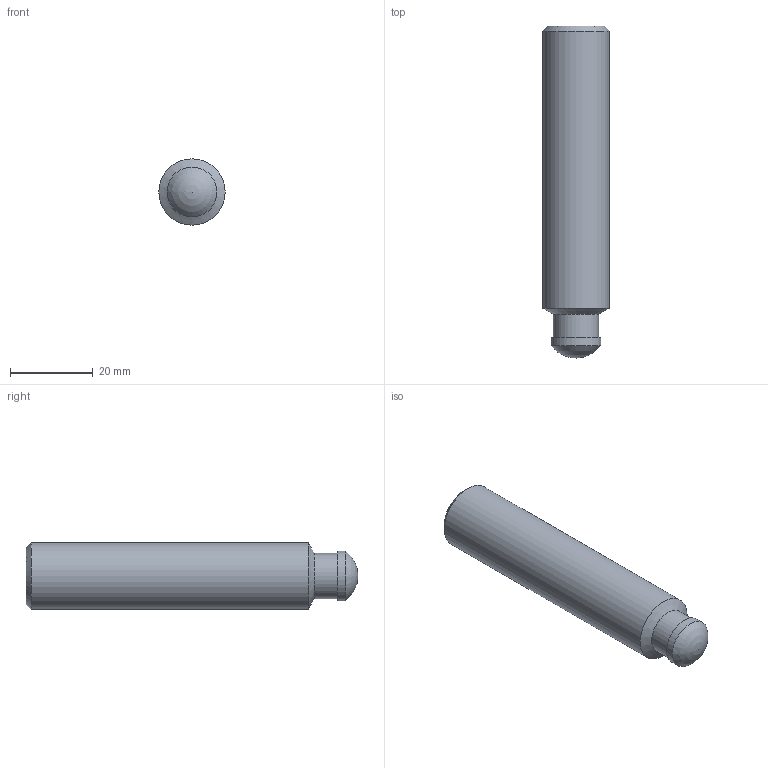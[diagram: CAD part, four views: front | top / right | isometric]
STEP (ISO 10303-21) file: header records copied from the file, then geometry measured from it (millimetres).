
FILE_DESCRIPTION( ( 'STEP AP203' ), '1' );
FILE_NAME( 'C:/Temp/Ganter_Step_05_03_2020/data/3_2/din6332/din6332/Grub screw DIN 6332-M16-80-SK.stp', '2020-03-13T05:16:24', ( 'License CC BY-ND 4.0' ), ( 'CADENAS' ), ' ', 'PARTsolutions', ' ' );
FILE_SCHEMA( ( 'CONFIG_CONTROL_DESIGN' ) );
Length unit declared in the file: millimetre
Products named in the file (1): _Grub screw DIN 6332-M16-80-SK
Bounding box: 16 x 80 x 16 mm (x, y, z)
Volume: 14533.9 mm3; surface area: 4255 mm2
Topology: 1 solids, 1 shells, 15 faces, 33 edges, 21 vertices
Faces by surface type: plane 9, cylinder 3, cone 2, sphere 1
Full cylindrical faces by diameter (mm): 11 x1, 12 x1, 16 x1
Entity records: 410 total; most frequent: DIRECTION 64, CARTESIAN_POINT 61, ORIENTED_EDGE 50, EDGE_CURVE 25, AXIS2_PLACEMENT_3D 23, EDGE_LOOP 22, VERTEX_POINT 20, FACE_OUTER_BOUND 18
